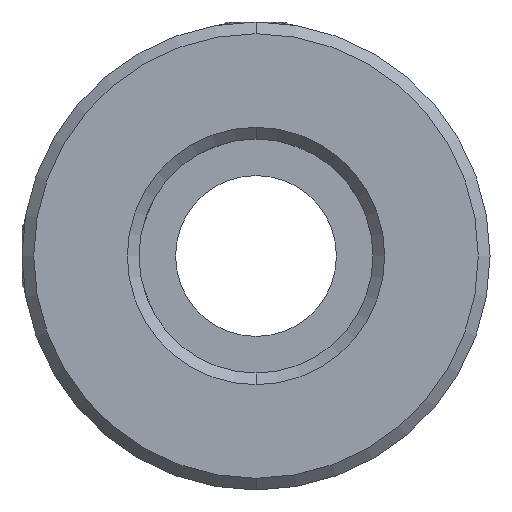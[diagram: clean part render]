
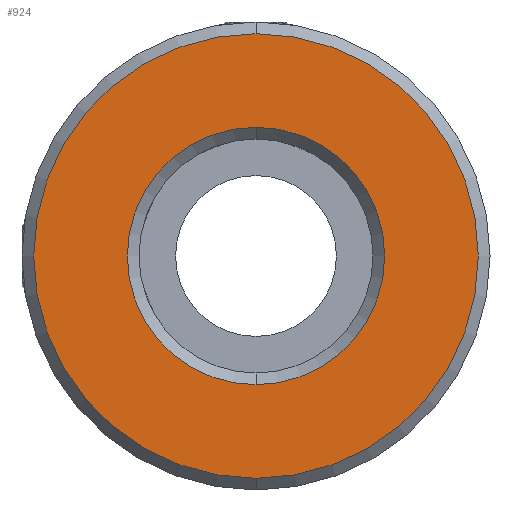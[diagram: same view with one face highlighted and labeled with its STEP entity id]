
A CAD part, front view. The second image highlights one B-rep face of the part: STEP entity #924.
In plain terms, the highlighted planar face has unit normal (0, -1, 0).
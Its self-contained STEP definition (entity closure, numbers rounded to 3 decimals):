
#27 = ORIENTED_EDGE ( 'NONE', *, *, #918, .T. ) ;
#43 = DIRECTION ( 'NONE',  ( 0., -1., 0. ) ) ;
#62 = EDGE_LOOP ( 'NONE', ( #27, #1172 ) ) ;
#175 = ORIENTED_EDGE ( 'NONE', *, *, #1266, .T. ) ;
#348 = EDGE_CURVE ( 'NONE', #2142, #1371, #1384, .T. ) ;
#404 = CARTESIAN_POINT ( 'NONE',  ( -10.188, -0.277, 0.046 ) ) ;
#467 = CARTESIAN_POINT ( 'NONE',  ( -10.188, -0.277, 0.046 ) ) ;
#514 = AXIS2_PLACEMENT_3D ( 'NONE', #707, #1878, #2686 ) ;
#655 = PLANE ( 'NONE',  #2000 ) ;
#658 = ORIENTED_EDGE ( 'NONE', *, *, #348, .T. ) ;
#707 = CARTESIAN_POINT ( 'NONE',  ( -10.188, -0.277, 0.046 ) ) ;
#918 = EDGE_CURVE ( 'NONE', #1276, #1909, #1753, .T. ) ;
#924 = ADVANCED_FACE ( 'NONE', ( #989, #1048 ), #655, .F. ) ;
#963 = DIRECTION ( 'NONE',  ( 0., 0., 1. ) ) ;
#989 = FACE_OUTER_BOUND ( 'NONE', #62, .T. ) ;
#1048 = FACE_BOUND ( 'NONE', #1421, .T. ) ;
#1172 = ORIENTED_EDGE ( 'NONE', *, *, #3260, .T. ) ;
#1230 = DIRECTION ( 'NONE',  ( 0., 0., 1. ) ) ;
#1241 = CARTESIAN_POINT ( 'NONE',  ( -10.188, -0.277, 15.246 ) ) ;
#1266 = EDGE_CURVE ( 'NONE', #1371, #2142, #2766, .T. ) ;
#1276 = VERTEX_POINT ( 'NONE', #1241 ) ;
#1311 = DIRECTION ( 'NONE',  ( 0., 1., 0. ) ) ;
#1371 = VERTEX_POINT ( 'NONE', #1415 ) ;
#1384 = CIRCLE ( 'NONE', #3441, 8.8 ) ;
#1415 = CARTESIAN_POINT ( 'NONE',  ( -10.188, -0.277, -8.754 ) ) ;
#1421 = EDGE_LOOP ( 'NONE', ( #175, #658 ) ) ;
#1650 = CIRCLE ( 'NONE', #2681, 15.2 ) ;
#1753 = CIRCLE ( 'NONE', #2771, 15.2 ) ;
#1801 = CARTESIAN_POINT ( 'NONE',  ( -10.188, -0.277, 0.046 ) ) ;
#1851 = DIRECTION ( 'NONE',  ( 0., -1., 0. ) ) ;
#1878 = DIRECTION ( 'NONE',  ( 0., 1., 0. ) ) ;
#1909 = VERTEX_POINT ( 'NONE', #2007 ) ;
#2000 = AXIS2_PLACEMENT_3D ( 'NONE', #467, #2427, #3047 ) ;
#2007 = CARTESIAN_POINT ( 'NONE',  ( -10.188, -0.277, -15.154 ) ) ;
#2142 = VERTEX_POINT ( 'NONE', #2672 ) ;
#2427 = DIRECTION ( 'NONE',  ( 0., 1., 0. ) ) ;
#2669 = CARTESIAN_POINT ( 'NONE',  ( -10.188, -0.277, 0.046 ) ) ;
#2672 = CARTESIAN_POINT ( 'NONE',  ( -10.188, -0.277, 8.846 ) ) ;
#2681 = AXIS2_PLACEMENT_3D ( 'NONE', #2669, #43, #1230 ) ;
#2686 = DIRECTION ( 'NONE',  ( 0., 0., 1. ) ) ;
#2766 = CIRCLE ( 'NONE', #514, 8.8 ) ;
#2771 = AXIS2_PLACEMENT_3D ( 'NONE', #1801, #1851, #3068 ) ;
#3047 = DIRECTION ( 'NONE',  ( 0., 0., 1. ) ) ;
#3068 = DIRECTION ( 'NONE',  ( 0., 0., 1. ) ) ;
#3260 = EDGE_CURVE ( 'NONE', #1909, #1276, #1650, .T. ) ;
#3441 = AXIS2_PLACEMENT_3D ( 'NONE', #404, #1311, #963 ) ;
